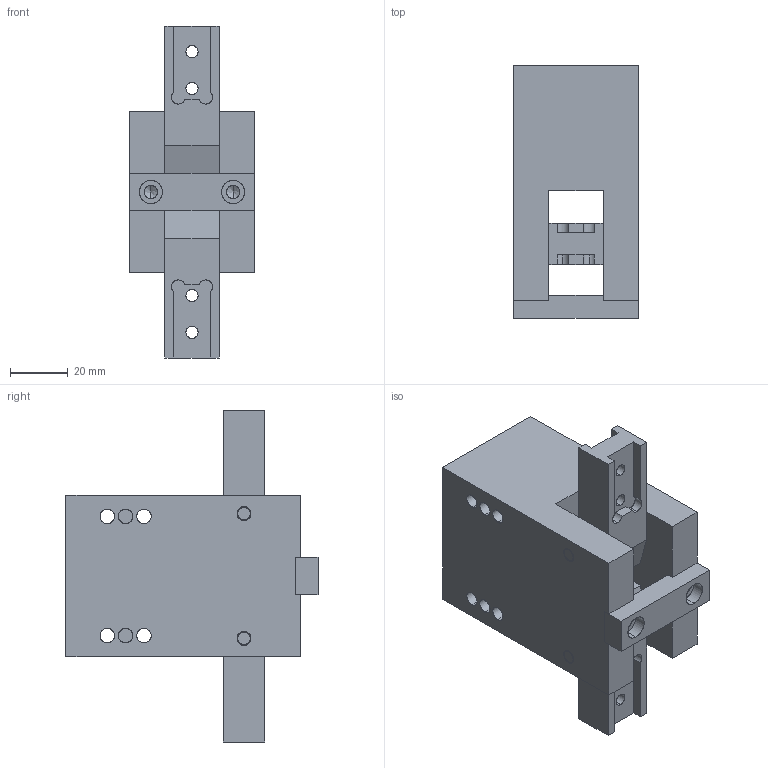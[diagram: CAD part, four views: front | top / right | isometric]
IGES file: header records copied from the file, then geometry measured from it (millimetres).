
Start section: SolidWorks IGES file using analytic representation for surfaces
Global section: file name: C:\Users\jmkuhnes\Pictures\AGA\AGA-30\AGA-30 OPEN in MM.IGS; native system: SolidWorks 2013; preprocessor: SolidWorks 2013; author: jmkuhnes; date: 141103.143044; units: millimetre
Bounding box: 43.18 x 87.25 x 114.91 mm (x, y, z)
Surface area: 43403.6 mm2 (no closed solid volume)
Topology: 0 solids, 0 shells, 211 faces, 3446 edges, 3430 vertices
Faces by surface type: revolution 131, bspline 80
